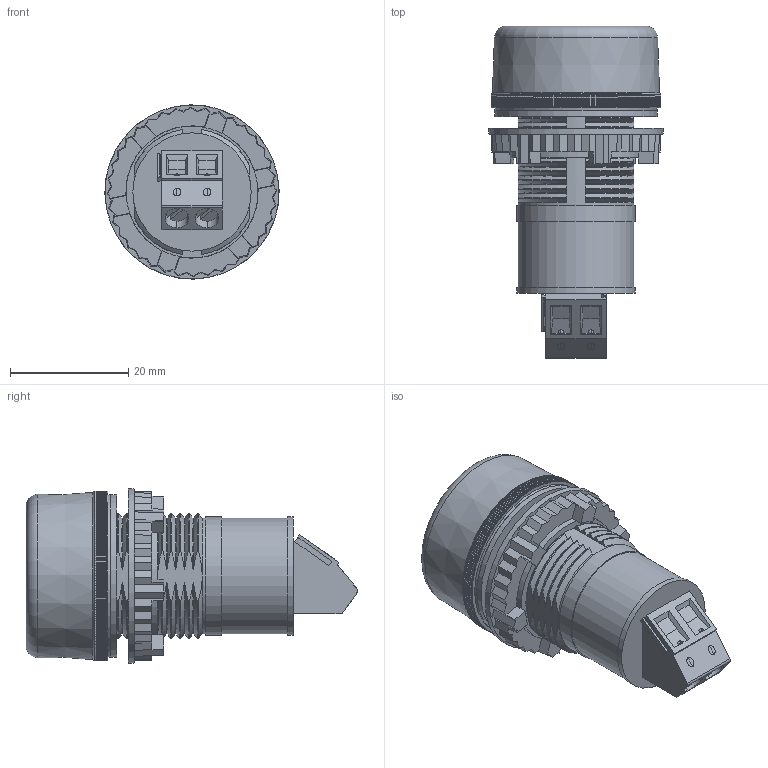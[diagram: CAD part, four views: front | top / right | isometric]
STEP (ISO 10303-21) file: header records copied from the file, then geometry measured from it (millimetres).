
FILE_DESCRIPTION (( 'STEP AP214' ), '1' );
FILE_NAME ('BA390A.STEP', '2021-01-28T14:24:10', ( '' ), ( '' ), 'SwSTEP 2.0', 'SolidWorks 2020', '' );
FILE_SCHEMA (( 'AUTOMOTIVE_DESIGN' ));
Length unit declared in the file: millimetre
Products named in the file (1): BA390A
Bounding box: 29.5 x 56.15 x 29.5 mm (x, y, z)
Volume: 16915.8 mm3; surface area: 10702.2 mm2
Topology: 5 solids, 5 shells, 1975 faces, 5149 edges, 3420 vertices
Faces by surface type: plane 1103, cylinder 695, cone 95, torus 78, sphere 4
Full cylindrical faces by diameter (mm): 19.6 x2, 20 x3, 20.8 x1, 22 x1, 23 x1, 25 x1, 26 x1, 26.2 x1, 27.5 x1, 28.7 x1
Entity records: 85529 total; most frequent: CARTESIAN_POINT 13918, DIRECTION 10736, ORIENTED_EDGE 10248, EDGE_CURVE 5124, AXIS2_PLACEMENT_3D 3988, VERTEX_POINT 3414, LINE 2760, VECTOR 2760
